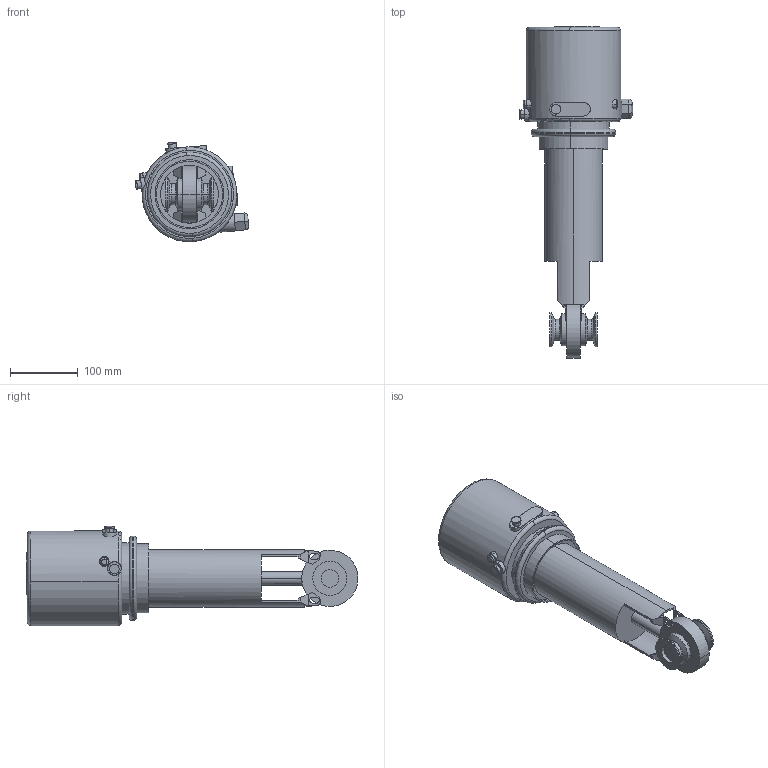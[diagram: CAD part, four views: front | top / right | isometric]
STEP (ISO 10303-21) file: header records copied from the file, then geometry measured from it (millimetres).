
FILE_DESCRIPTION(('Creo Elements/Direct Modeling STEP Export'),'2;1');
FILE_NAME('SV1-25-CU4-12CL.stp','2014-06-23T11:16:15',(''),(''),'Creo Elements/Direct Modeling STEP processor for AP214 (Solid Model)','Creo Elements/Direct Modeling 17.0D 15-Jul-2011 (C) Parametric Technology GmbH','');
FILE_SCHEMA(('AUTOMOTIVE_DESIGN { 1 0 10303 214 1 1 1 1 }'));
Length unit declared in the file: millimetre
Products named in the file (3): SV1-25-FZ-12CL; CU4-T-SPX_logo; SV1-25-CU4-12CL
Assembly tree (2 placements, depth 2):
  SV1-25-CU4-12CL
    CU4-T-SPX_logo
    SV1-25-FZ-12CL
Bounding box: 167.03 x 489.93 x 146.59 mm (x, y, z)
Volume: 3677896.3 mm3; surface area: 218769.2 mm2
Topology: 2 solids, 2 shells, 271 faces, 702 edges, 444 vertices
Faces by surface type: plane 114, cylinder 90, extrusion 33, torus 26, cone 8
Entity records: 12093 total; most frequent: CARTESIAN_POINT 5760, ORIENTED_EDGE 1404, DIRECTION 1172, EDGE_CURVE 702, VERTEX_POINT 444, AXIS2_PLACEMENT_3D 421, VECTOR 330, LINE 297
